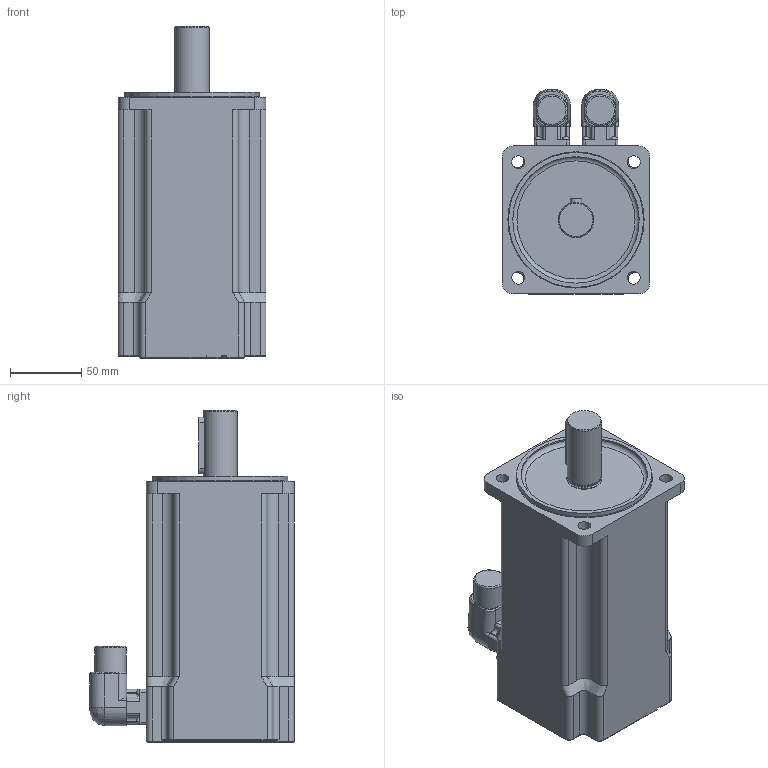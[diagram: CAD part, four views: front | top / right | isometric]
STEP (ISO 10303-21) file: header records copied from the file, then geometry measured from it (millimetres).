
FILE_DESCRIPTION((''),'2;1');
FILE_NAME('C:\Autodesk Vault\AUTODESK_VAULT\CAD\000-FERTIG Motors\BM100\_Gesamtbaugruppen\Step\Standard\21.05.2012_P1\AM8051-xx01-xxxx_21.05.2012.stp','2012-05-21T13:04:15',('KathrinW'),(''),'Autodesk Inventor 2012','Autodesk Inventor 2012','');
FILE_SCHEMA(('CONFIG_CONTROL_DESIGN'));
Length unit declared in the file: millimetre
Products named in the file (4): BM100-VM-01; BM100-VM-00; Intercontec-BEDC110NN00000101000; DIN 6885-A8x7x40
Assembly tree (4 placements, depth 2):
  BM100-VM-01
    BM100-VM-00
    Intercontec-BEDC110NN00000101000  x2
    DIN 6885-A8x7x40
Bounding box: 104 x 143.8 x 233.5 mm (x, y, z)
Volume: 1840515.8 mm3; surface area: 115585.7 mm2
Topology: 4 solids, 4 shells, 409 faces, 1027 edges, 649 vertices
Faces by surface type: plane 209, cylinder 119, bspline 57, torus 18, cone 6
Full cylindrical faces by diameter (mm): 4.8 x8, 9 x4, 20.1 x2, 22 x2, 23.4 x1, 24 x1, 25 x1, 89 x1, 95 x1
Entity records: 10917 total; most frequent: CARTESIAN_POINT 3017, ORIENTED_EDGE 1578, DIRECTION 1498, EDGE_CURVE 789, VERTEX_POINT 521, AXIS2_PLACEMENT_3D 506, VECTOR 486, LINE 486
